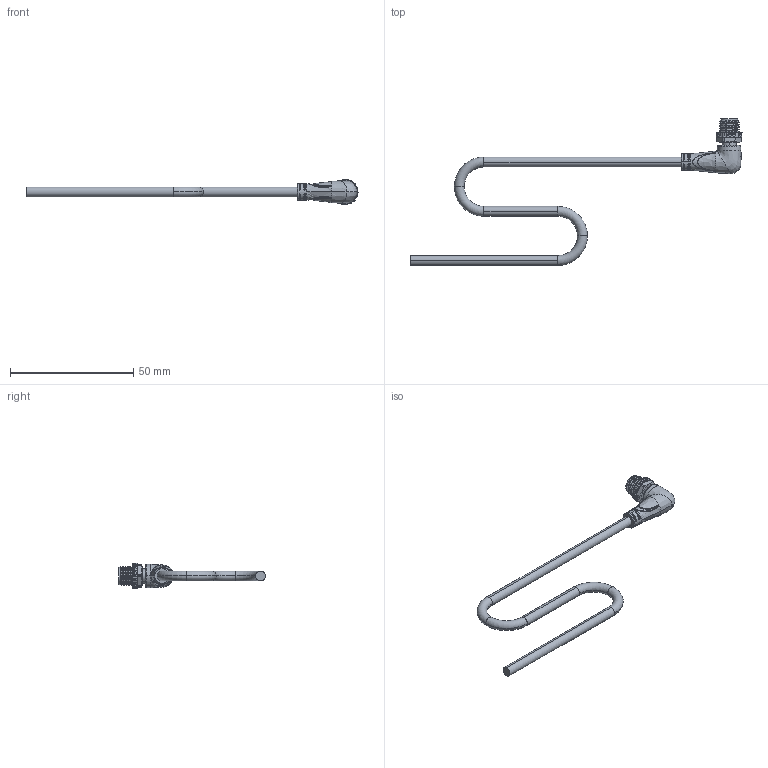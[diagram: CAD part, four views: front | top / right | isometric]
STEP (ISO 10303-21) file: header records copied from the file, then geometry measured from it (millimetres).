
FILE_DESCRIPTION (( 'STEP AP214' ), '1' );
FILE_NAME ('M8俔芛3P鼠傷.STEP', '2024-12-19T01:28:13', ( 'Windows User' ), ( 'P R C' ), 'SwSTEP 2.0', 'SolidWorks 2023', '' );
FILE_SCHEMA (( 'AUTOMOTIVE_DESIGN' ));
Length unit declared in the file: millimetre
Products named in the file (6): SD1705298-M8公端插针-A0; M8-90°包胶-A1_4; SD1100823-M8滚花螺栓（外螺纹对边9）-A0; M8弯头3P公端; 导线_φ4.0; SD1705294-M8-3P公端插座-A0
Assembly tree (7 placements, depth 2):
  M8弯头3P公端
    M8-90°包胶-A1_4
    SD1100823-M8滚花螺栓（外螺纹对边9）-A0
    SD1705294-M8-3P公端插座-A0
    SD1705298-M8公端插针-A0  x3
    导线_φ4.0
Bounding box: 134.75 x 59.65 x 10.38 mm (x, y, z)
Volume: 4827.2 mm3; surface area: 5619.7 mm2
Topology: 13 solids, 13 shells, 1202 faces, 3094 edges, 1931 vertices
Faces by surface type: plane 460, cylinder 316, cone 190, bspline 166, torus 52, sphere 18
Entity records: 36803 total; most frequent: CARTESIAN_POINT 18403, ORIENTED_EDGE 4264, DIRECTION 3188, EDGE_CURVE 2132, VERTEX_POINT 1365, AXIS2_PLACEMENT_3D 1186, EDGE_LOOP 841, LINE 816
